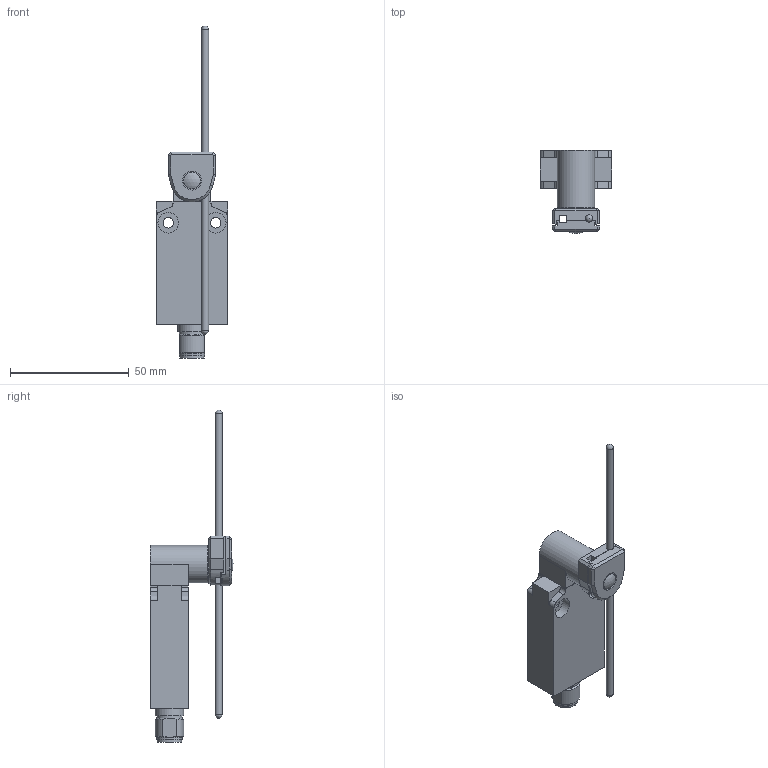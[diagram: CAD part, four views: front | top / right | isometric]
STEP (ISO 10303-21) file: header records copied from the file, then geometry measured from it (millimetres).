
FILE_DESCRIPTION(/* description */ (''),/* implementation_level */ '2;1');
FILE_NAME(/* name */ 'M49AD_bottom M12.stp',/* time_stamp */ '2024-11-19T15:06:16+01:00',/* author */ ('servizio.tecnico'),/* organization */ (''),/* preprocessor_version */ 'ST-DEVELOPER v19.2',/* originating_system */ 'Autodesk Inventor 2024',/* authorisation */ '');
FILE_SCHEMA (('AUTOMOTIVE_DESIGN { 1 0 10303 214 3 1 1 }'));
Length unit declared in the file: millimetre
Products named in the file (4): EP1G71; Product; fu 4120; Product_1
Assembly tree (3 placements, depth 2):
  EP1G71
    Product
    fu 4120
    Product_1
Bounding box: 30 x 35.03 x 140 mm (x, y, z)
Volume: 34986.2 mm3; surface area: 13609.3 mm2
Topology: 6 solids, 6 shells, 170 faces, 407 edges, 262 vertices
Faces by surface type: plane 112, cylinder 44, cone 10, sphere 3, torus 1
Full cylindrical faces by diameter (mm): 3 x1, 4.4 x2, 5 x1, 7 x1, 8 x1, 8.7 x4, 10.3 x2, 10.6 x4, 11 x1, 12 x2, 15.8 x1
Entity records: 5136 total; most frequent: CARTESIAN_POINT 906, DIRECTION 852, ORIENTED_EDGE 810, EDGE_CURVE 405, AXIS2_PLACEMENT_3D 288, LINE 276, VECTOR 276, VERTEX_POINT 262
